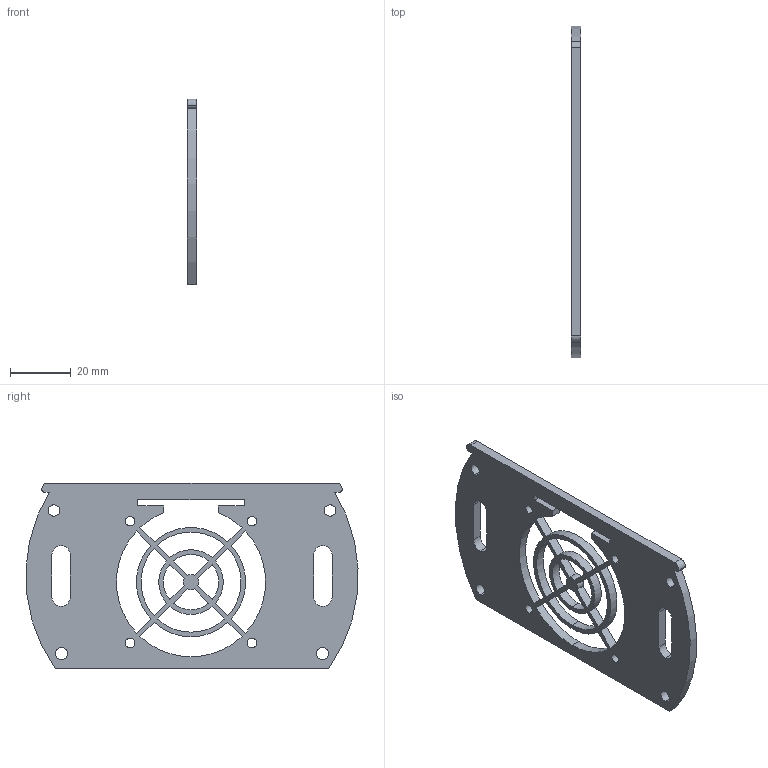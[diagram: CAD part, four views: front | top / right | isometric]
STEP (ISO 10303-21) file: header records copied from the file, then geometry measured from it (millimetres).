
FILE_DESCRIPTION (( 'STEP AP214' ), '1' );
FILE_NAME ('Back_Fan_Plate.STEP', '2019-01-10T18:27:10', ( '' ), ( '' ), 'SwSTEP 2.0', 'SolidWorks 2017', '' );
FILE_SCHEMA (( 'AUTOMOTIVE_DESIGN' ));
Length unit declared in the file: millimetre
Products named in the file (1): Back_Fan_Plate
Bounding box: 3 x 108.98 x 61 mm (x, y, z)
Volume: 13221.9 mm3; surface area: 12320.9 mm2
Topology: 1 solids, 1 shells, 102 faces, 300 edges, 200 vertices
Faces by surface type: cylinder 61, plane 41
Entity records: 3568 total; most frequent: DIRECTION 628, CARTESIAN_POINT 603, ORIENTED_EDGE 600, EDGE_CURVE 300, AXIS2_PLACEMENT_3D 225, VERTEX_POINT 200, LINE 178, VECTOR 178
